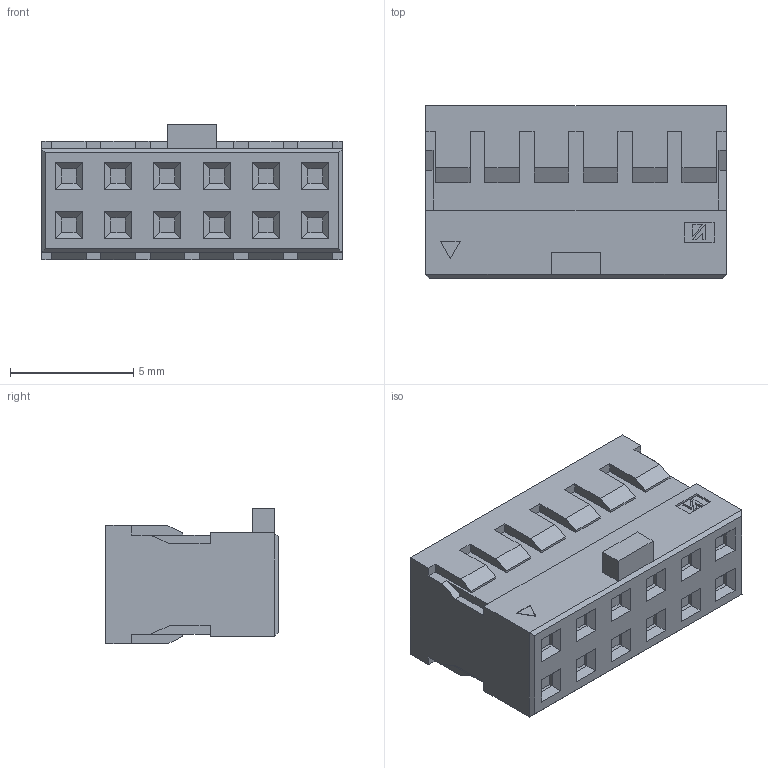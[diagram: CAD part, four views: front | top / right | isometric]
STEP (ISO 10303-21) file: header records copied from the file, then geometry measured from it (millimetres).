
FILE_DESCRIPTION((''),'2;1');
FILE_NAME('S-51383-010XXXX-002','2020-08-03T',('d37621'),(''),'CREO PARAMETRIC BY PTC INC, 2014500','CREO PARAMETRIC BY PTC INC, 2014500','');
FILE_SCHEMA(('CONFIG_CONTROL_DESIGN'));
Length unit declared in the file: millimetre
Products named in the file (1): S-51383-010XXXX-002
Bounding box: 12.2 x 7 x 5.5 mm (x, y, z)
Volume: 349.3 mm3; surface area: 429.3 mm2
Topology: 1 solids, 1 shells, 367 faces, 933 edges, 596 vertices
Faces by surface type: plane 367
Entity records: 10761 total; most frequent: CARTESIAN_POINT 1896, ORIENTED_EDGE 1866, DIRECTION 1667, VECTOR 933, LINE 933, EDGE_CURVE 933, VERTEX_POINT 596, EDGE_LOOP 395
